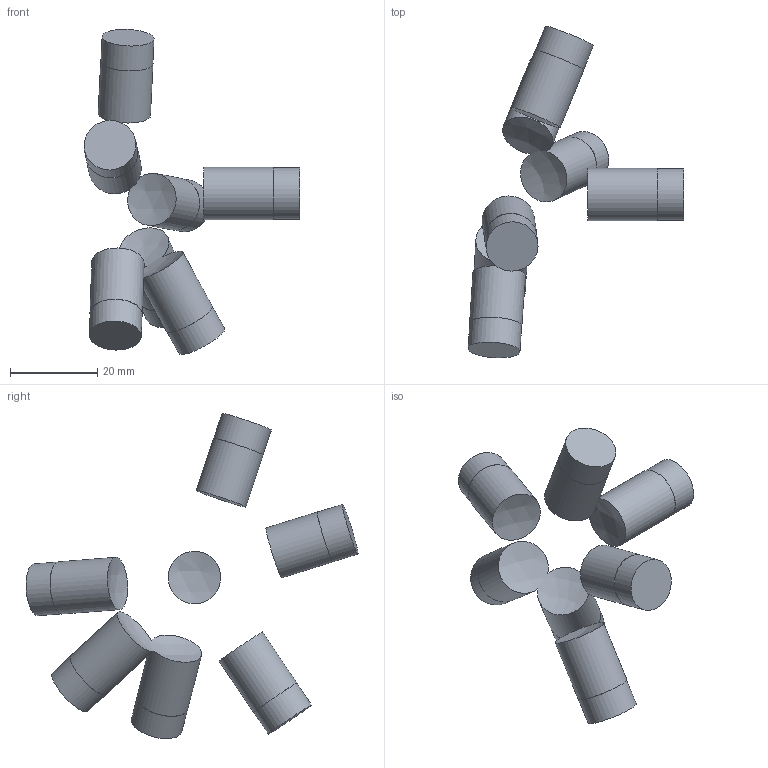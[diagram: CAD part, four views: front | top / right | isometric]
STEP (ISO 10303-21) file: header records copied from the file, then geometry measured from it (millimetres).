
FILE_DESCRIPTION(('Open CASCADE Model'),'2;1');
FILE_NAME('Open CASCADE Shape Model','2026-10-21T12:47:57',('Author'),( 'Open CASCADE'),'Open CASCADE STEP processor 7.9','Open CASCADE 7.9' ,'Unknown');
FILE_SCHEMA(('AUTOMOTIVE_DESIGN { 1 0 10303 214 1 1 1 1 }'));
Length unit declared in the file: millimetre
Products named in the file (1): Open CASCADE STEP translator 7.9 45
Bounding box: 49.42 x 76.03 x 74.49 mm (x, y, z)
Volume: 15509 mm3; surface area: 6896.7 mm2
Topology: 5 solids, 5 shells, 33 faces, 50 edges, 34 vertices
Faces by surface type: cylinder 14, plane 14, sphere 5
Full cylindrical faces by diameter (mm): 11.9 x7, 12 x7
Entity records: 2103 total; most frequent: CARTESIAN_POINT 935, DIRECTION 238, ORIENTED_EDGE 104, PCURVE 104, DEFINITIONAL_REPRESENTATION 104, LINE 81, VECTOR 81, AXIS2_PLACEMENT_3D 68
